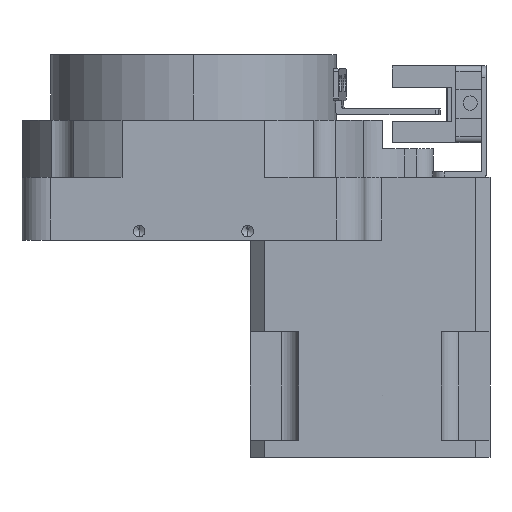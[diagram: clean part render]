
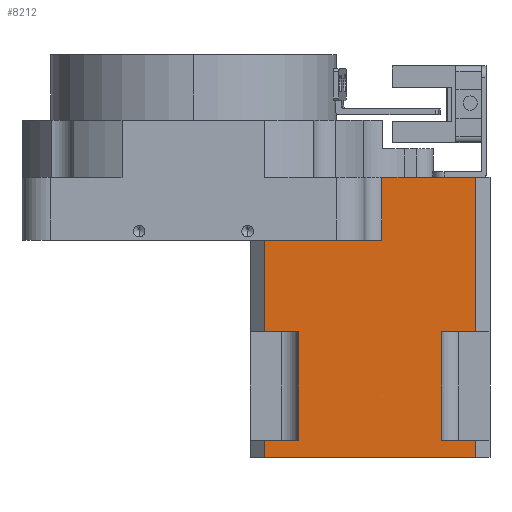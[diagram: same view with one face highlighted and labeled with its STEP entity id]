
A CAD part, left-side view. The second image highlights one B-rep face of the part: STEP entity #8212.
In plain terms, the highlighted planar face has unit normal (-1, 0, 0).
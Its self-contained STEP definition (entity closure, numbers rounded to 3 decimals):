
#78 = CARTESIAN_POINT ( 'NONE',  ( -42.092, -63.598, -34.25 ) ) ;
#86 = CARTESIAN_POINT ( 'NONE',  ( -42.092, -63.598, 33.25 ) ) ;
#198 = CARTESIAN_POINT ( 'NONE',  ( -42.092, -32.598, -34.25 ) ) ;
#210 = ORIENTED_EDGE ( 'NONE', *, *, #6671, .F. ) ;
#253 = VECTOR ( 'NONE', #3326, 1000. ) ;
#379 = LINE ( 'NONE', #5260, #4687 ) ;
#465 = ORIENTED_EDGE ( 'NONE', *, *, #5930, .F. ) ;
#538 = VECTOR ( 'NONE', #861, 1000. ) ;
#575 = LINE ( 'NONE', #8082, #7803 ) ;
#577 = EDGE_CURVE ( 'NONE', #2602, #8164, #1942, .T. ) ;
#584 = LINE ( 'NONE', #3366, #253 ) ;
#685 = VERTEX_POINT ( 'NONE', #8304 ) ;
#764 = DIRECTION ( 'NONE',  ( 0., 1., 0. ) ) ;
#818 = EDGE_LOOP ( 'NONE', ( #4692, #1998, #7671, #8058, #210, #465, #3142, #7576, #7571, #3385, #1824, #3068, #4796, #5299 ) ) ;
#827 = VECTOR ( 'NONE', #8457, 1000. ) ;
#828 = VERTEX_POINT ( 'NONE', #5849 ) ;
#861 = DIRECTION ( 'NONE',  ( 0., 0., 1. ) ) ;
#914 = DIRECTION ( 'NONE',  ( 0., 1., 0. ) ) ;
#1078 = DIRECTION ( 'NONE',  ( 0., 0., 1. ) ) ;
#1089 = PLANE ( 'NONE',  #3454 ) ;
#1268 = CARTESIAN_POINT ( 'NONE',  ( -42.092, -32.598, -15.25 ) ) ;
#1348 = CARTESIAN_POINT ( 'NONE',  ( -42.092, -26.598, -37.25 ) ) ;
#1508 = VERTEX_POINT ( 'NONE', #3239 ) ;
#1575 = DIRECTION ( 'NONE',  ( 0., -1., 0. ) ) ;
#1578 = CARTESIAN_POINT ( 'NONE',  ( -42.092, -63.598, -37.25 ) ) ;
#1594 = EDGE_CURVE ( 'NONE', #2602, #1508, #8183, .T. ) ;
#1764 = DIRECTION ( 'NONE',  ( 0., 0., 1. ) ) ;
#1786 = VERTEX_POINT ( 'NONE', #3130 ) ;
#1824 = ORIENTED_EDGE ( 'NONE', *, *, #577, .F. ) ;
#1942 = LINE ( 'NONE', #5444, #7955 ) ;
#1956 = CARTESIAN_POINT ( 'NONE',  ( -42.092, -32.598, -34.25 ) ) ;
#1998 = ORIENTED_EDGE ( 'NONE', *, *, #7528, .T. ) ;
#2007 = CARTESIAN_POINT ( 'NONE',  ( -42.092, -47.173, 33.25 ) ) ;
#2116 = EDGE_CURVE ( 'NONE', #2194, #1786, #3448, .T. ) ;
#2194 = VERTEX_POINT ( 'NONE', #1578 ) ;
#2248 = CARTESIAN_POINT ( 'NONE',  ( -42.092, -57.598, -15.25 ) ) ;
#2273 = VECTOR ( 'NONE', #1764, 1000. ) ;
#2325 = VERTEX_POINT ( 'NONE', #6082 ) ;
#2379 = VERTEX_POINT ( 'NONE', #6667 ) ;
#2602 = VERTEX_POINT ( 'NONE', #198 ) ;
#2839 = CARTESIAN_POINT ( 'NONE',  ( -42.092, -63.598, -15.25 ) ) ;
#2970 = VERTEX_POINT ( 'NONE', #2839 ) ;
#3033 = EDGE_CURVE ( 'NONE', #828, #6779, #379, .T. ) ;
#3068 = ORIENTED_EDGE ( 'NONE', *, *, #1594, .T. ) ;
#3130 = CARTESIAN_POINT ( 'NONE',  ( -42.092, -26.598, -37.25 ) ) ;
#3142 = ORIENTED_EDGE ( 'NONE', *, *, #3033, .T. ) ;
#3211 = DIRECTION ( 'NONE',  ( 0., 0., -1. ) ) ;
#3239 = CARTESIAN_POINT ( 'NONE',  ( -42.092, -26.598, -34.25 ) ) ;
#3244 = VERTEX_POINT ( 'NONE', #8621 ) ;
#3326 = DIRECTION ( 'NONE',  ( 0., 0., 1. ) ) ;
#3366 = CARTESIAN_POINT ( 'NONE',  ( -42.092, -57.598, -34.25 ) ) ;
#3385 = ORIENTED_EDGE ( 'NONE', *, *, #6442, .F. ) ;
#3448 = LINE ( 'NONE', #1348, #8078 ) ;
#3453 = LINE ( 'NONE', #8358, #3662 ) ;
#3454 = AXIS2_PLACEMENT_3D ( 'NONE', #2007, #4060, #6825 ) ;
#3662 = VECTOR ( 'NONE', #6951, 1000. ) ;
#3870 = VECTOR ( 'NONE', #914, 1000. ) ;
#4052 = VECTOR ( 'NONE', #1575, 1000. ) ;
#4060 = DIRECTION ( 'NONE',  ( 1., 0., 0. ) ) ;
#4251 = CARTESIAN_POINT ( 'NONE',  ( -42.092, -63.598, 33.25 ) ) ;
#4339 = VECTOR ( 'NONE', #764, 1000. ) ;
#4400 = VECTOR ( 'NONE', #8911, 1000. ) ;
#4512 = LINE ( 'NONE', #7151, #3870 ) ;
#4687 = VECTOR ( 'NONE', #3211, 1000. ) ;
#4692 = ORIENTED_EDGE ( 'NONE', *, *, #7934, .F. ) ;
#4727 = DIRECTION ( 'NONE',  ( 0., 1., 0. ) ) ;
#4796 = ORIENTED_EDGE ( 'NONE', *, *, #6817, .F. ) ;
#4954 = DIRECTION ( 'NONE',  ( 0., 1., 0. ) ) ;
#5100 = LINE ( 'NONE', #7223, #538 ) ;
#5260 = CARTESIAN_POINT ( 'NONE',  ( -42.092, -47.173, 33.25 ) ) ;
#5275 = EDGE_CURVE ( 'NONE', #2379, #5977, #584, .T. ) ;
#5299 = ORIENTED_EDGE ( 'NONE', *, *, #2116, .F. ) ;
#5444 = CARTESIAN_POINT ( 'NONE',  ( -42.092, -32.598, -34.25 ) ) ;
#5674 = CARTESIAN_POINT ( 'NONE',  ( -42.092, -47.173, 11.75 ) ) ;
#5729 = CARTESIAN_POINT ( 'NONE',  ( -42.092, -47.173, 0.75 ) ) ;
#5738 = VERTEX_POINT ( 'NONE', #8127 ) ;
#5849 = CARTESIAN_POINT ( 'NONE',  ( -42.092, -47.173, 11.75 ) ) ;
#5930 = EDGE_CURVE ( 'NONE', #828, #685, #7936, .T. ) ;
#5977 = VERTEX_POINT ( 'NONE', #2248 ) ;
#6082 = CARTESIAN_POINT ( 'NONE',  ( -42.092, -63.598, -34.25 ) ) ;
#6138 = LINE ( 'NONE', #78, #4339 ) ;
#6442 = EDGE_CURVE ( 'NONE', #8164, #5738, #4512, .T. ) ;
#6667 = CARTESIAN_POINT ( 'NONE',  ( -42.092, -57.598, -34.25 ) ) ;
#6671 = EDGE_CURVE ( 'NONE', #685, #2970, #7773, .T. ) ;
#6755 = EDGE_CURVE ( 'NONE', #5738, #3244, #8543, .T. ) ;
#6779 = VERTEX_POINT ( 'NONE', #5729 ) ;
#6817 = EDGE_CURVE ( 'NONE', #1786, #1508, #5100, .T. ) ;
#6825 = DIRECTION ( 'NONE',  ( 0., 1., 0. ) ) ;
#6870 = EDGE_CURVE ( 'NONE', #6779, #3244, #575, .T. ) ;
#6951 = DIRECTION ( 'NONE',  ( 0., 1., 0. ) ) ;
#7055 = LINE ( 'NONE', #4251, #7961 ) ;
#7151 = CARTESIAN_POINT ( 'NONE',  ( -42.092, -32.598, -15.25 ) ) ;
#7181 = CARTESIAN_POINT ( 'NONE',  ( -42.092, -26.598, -37.25 ) ) ;
#7223 = CARTESIAN_POINT ( 'NONE',  ( -42.092, -26.598, -37.25 ) ) ;
#7528 = EDGE_CURVE ( 'NONE', #2325, #2379, #6138, .T. ) ;
#7571 = ORIENTED_EDGE ( 'NONE', *, *, #6755, .F. ) ;
#7576 = ORIENTED_EDGE ( 'NONE', *, *, #6870, .T. ) ;
#7671 = ORIENTED_EDGE ( 'NONE', *, *, #5275, .T. ) ;
#7773 = LINE ( 'NONE', #86, #827 ) ;
#7803 = VECTOR ( 'NONE', #4727, 1000. ) ;
#7934 = EDGE_CURVE ( 'NONE', #2325, #2194, #7055, .T. ) ;
#7936 = LINE ( 'NONE', #5674, #4052 ) ;
#7955 = VECTOR ( 'NONE', #1078, 1000. ) ;
#7961 = VECTOR ( 'NONE', #8293, 1000. ) ;
#8058 = ORIENTED_EDGE ( 'NONE', *, *, #8701, .F. ) ;
#8078 = VECTOR ( 'NONE', #4954, 1000. ) ;
#8082 = CARTESIAN_POINT ( 'NONE',  ( -42.092, -26.598, 0.75 ) ) ;
#8127 = CARTESIAN_POINT ( 'NONE',  ( -42.092, -26.598, -15.25 ) ) ;
#8164 = VERTEX_POINT ( 'NONE', #1268 ) ;
#8183 = LINE ( 'NONE', #1956, #4400 ) ;
#8212 = ADVANCED_FACE ( 'NONE', ( #8232 ), #1089, .F. ) ;
#8232 = FACE_OUTER_BOUND ( 'NONE', #818, .T. ) ;
#8293 = DIRECTION ( 'NONE',  ( 0., 0., -1. ) ) ;
#8304 = CARTESIAN_POINT ( 'NONE',  ( -42.092, -63.598, 11.75 ) ) ;
#8358 = CARTESIAN_POINT ( 'NONE',  ( -42.092, -63.598, -15.25 ) ) ;
#8457 = DIRECTION ( 'NONE',  ( 0., 0., -1. ) ) ;
#8543 = LINE ( 'NONE', #7181, #2273 ) ;
#8621 = CARTESIAN_POINT ( 'NONE',  ( -42.092, -26.598, 0.75 ) ) ;
#8701 = EDGE_CURVE ( 'NONE', #2970, #5977, #3453, .T. ) ;
#8911 = DIRECTION ( 'NONE',  ( 0., 1., 0. ) ) ;
